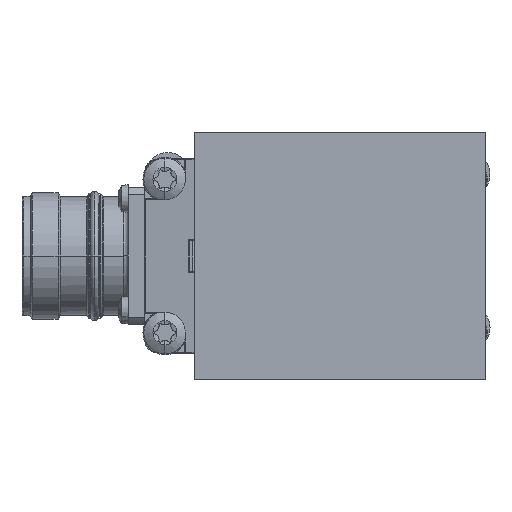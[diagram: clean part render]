
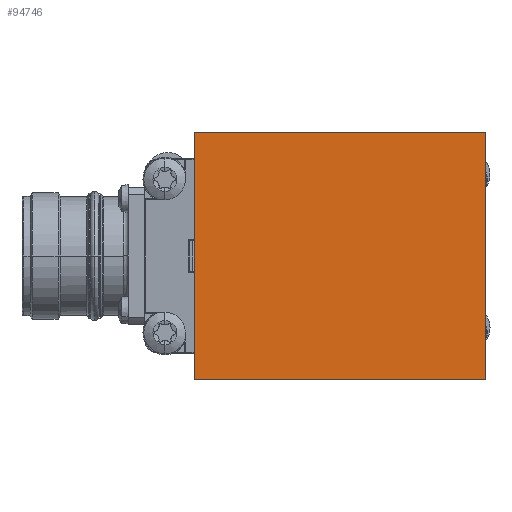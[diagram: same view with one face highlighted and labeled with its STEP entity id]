
A CAD part, front view. The second image highlights one B-rep face of the part: STEP entity #94746.
In plain terms, the highlighted planar face has unit normal (0, -1, 0).
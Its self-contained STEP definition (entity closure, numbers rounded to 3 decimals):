
#10896 = CARTESIAN_POINT ( 'NONE',  ( -53., -22.5, 22.5 ) ) ;
#18855 = VECTOR ( 'NONE', #101491, 1000. ) ;
#21197 = CARTESIAN_POINT ( 'NONE',  ( 0., -22.5, 22.5 ) ) ;
#21227 = VECTOR ( 'NONE', #72617, 1000. ) ;
#26986 = DIRECTION ( 'NONE',  ( 0., 0., -1. ) ) ;
#34989 = VECTOR ( 'NONE', #201143, 1000. ) ;
#36161 = VECTOR ( 'NONE', #26986, 1000. ) ;
#52760 = EDGE_CURVE ( 'NONE', #189196, #100889, #126526, .T. ) ;
#57885 = CARTESIAN_POINT ( 'NONE',  ( 1.414, -22.5, -22.5 ) ) ;
#66504 = EDGE_CURVE ( 'NONE', #100889, #187688, #206274, .T. ) ;
#68518 = CARTESIAN_POINT ( 'NONE',  ( 1.414, -22.5, 22.5 ) ) ;
#72617 = DIRECTION ( 'NONE',  ( 0., 0., -1. ) ) ;
#84547 = DIRECTION ( 'NONE',  ( 0., 1., 0. ) ) ;
#92953 = FACE_OUTER_BOUND ( 'NONE', #100238, .T. ) ;
#94746 = ADVANCED_FACE ( 'NONE', ( #92953 ), #176763, .F. ) ;
#100238 = EDGE_LOOP ( 'NONE', ( #188515, #184176, #151662, #204879 ) ) ;
#100889 = VERTEX_POINT ( 'NONE', #131831 ) ;
#101491 = DIRECTION ( 'NONE',  ( -1., 0., 0. ) ) ;
#120134 = LINE ( 'NONE', #57885, #34989 ) ;
#126526 = LINE ( 'NONE', #68518, #18855 ) ;
#131831 = CARTESIAN_POINT ( 'NONE',  ( -53., -22.5, 22.5 ) ) ;
#135174 = CARTESIAN_POINT ( 'NONE',  ( -53., -22.5, -22.5 ) ) ;
#139356 = EDGE_CURVE ( 'NONE', #187903, #187688, #120134, .T. ) ;
#151662 = ORIENTED_EDGE ( 'NONE', *, *, #183022, .F. ) ;
#156039 = CARTESIAN_POINT ( 'NONE',  ( 0., -22.5, -22.5 ) ) ;
#163368 = AXIS2_PLACEMENT_3D ( 'NONE', #180234, #84547, #196271 ) ;
#168444 = CARTESIAN_POINT ( 'NONE',  ( 0., -22.5, 22.5 ) ) ;
#176763 = PLANE ( 'NONE',  #163368 ) ;
#180234 = CARTESIAN_POINT ( 'NONE',  ( 0., -22.5, 22.5 ) ) ;
#183022 = EDGE_CURVE ( 'NONE', #189196, #187903, #191423, .T. ) ;
#184176 = ORIENTED_EDGE ( 'NONE', *, *, #139356, .F. ) ;
#187688 = VERTEX_POINT ( 'NONE', #135174 ) ;
#187903 = VERTEX_POINT ( 'NONE', #156039 ) ;
#188515 = ORIENTED_EDGE ( 'NONE', *, *, #66504, .T. ) ;
#189196 = VERTEX_POINT ( 'NONE', #21197 ) ;
#191423 = LINE ( 'NONE', #168444, #21227 ) ;
#196271 = DIRECTION ( 'NONE',  ( 0., 0., 1. ) ) ;
#201143 = DIRECTION ( 'NONE',  ( -1., 0., 0. ) ) ;
#204879 = ORIENTED_EDGE ( 'NONE', *, *, #52760, .T. ) ;
#206274 = LINE ( 'NONE', #10896, #36161 ) ;
